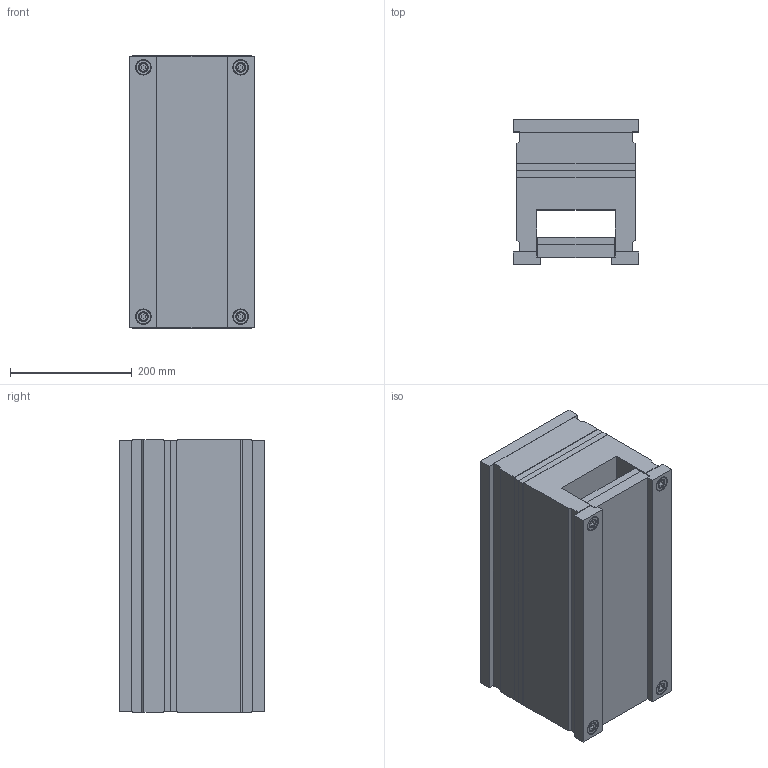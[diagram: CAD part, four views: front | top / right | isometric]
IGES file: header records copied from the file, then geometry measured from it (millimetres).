
Start section: SolidWorks IGES FILE using analytic representation for surfaces
Global section: file name: C:\Documents and Settings\K.P\My Documents\Mechanical\ALMO\CATL_EUR\RECT\1966.IGS; native system: SolidWorks 2001Plus by SolidWorks Corporation; preprocessor: Version 5.3; author: Pavel; date: 020709.092131; units: millimetre
Bounding box: 206 x 239 x 448 mm (x, y, z)
Surface area: 1142901.8 mm2 (no closed solid volume)
Topology: 0 solids, 0 shells, 706 faces, 10312 edges, 10304 vertices
Faces by surface type: revolution 452, bspline 254
